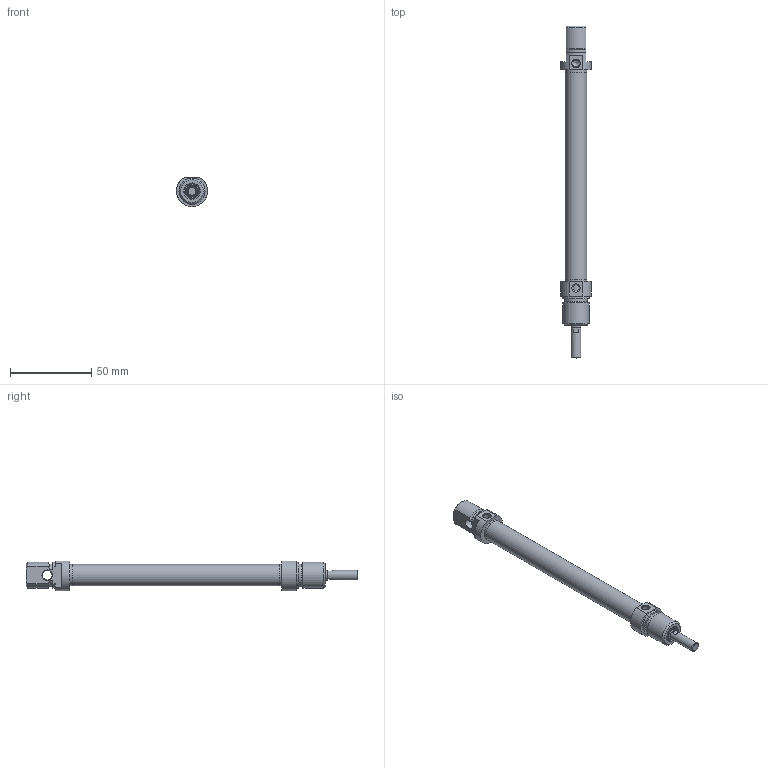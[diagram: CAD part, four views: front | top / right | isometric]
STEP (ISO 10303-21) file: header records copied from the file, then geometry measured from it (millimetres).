
FILE_DESCRIPTION((''),'2;1');
FILE_NAME('T:\Archivio Inventor\- 00 NUOVI STP PER SITO CON STELO CHE SI MUOVE\SERIE O\ODM\ODM012.---.GS.M\ODM012.100.GS.M.stp','2014-02-25T15:23:58',('carlo.corazza'),(''),'Autodesk Inventor 2012','Autodesk Inventor 2012','');
FILE_SCHEMA(('AUTOMOTIVE_DESIGN { 1 0 10303 214 1 1 1 1 }'));
Length unit declared in the file: millimetre
Products named in the file (5): ODM012..GS.M; CORPO-100; STELO-100; TA; TP
Assembly tree (4 placements, depth 2):
  ODM012..GS.M
    CORPO-100
    STELO-100
    TA
    TP
Bounding box: 18.95 x 204 x 18 mm (x, y, z)
Volume: 18468.5 mm3; surface area: 18304.2 mm2
Topology: 4 solids, 4 shells, 98 faces, 200 edges, 127 vertices
Faces by surface type: plane 38, cylinder 28, cone 24, torus 8
Full cylindrical faces by diameter (mm): 4 x1, 4.134 x2, 5.9 x1, 6 x2, 6.5 x1, 7.1 x1, 9 x1, 9.1 x1, 11.1 x1, 11.2 x1, 12 x1, 13.2 x2, 13.27 x1, 13.7 x1, 16 x2
Entity records: 2527 total; most frequent: DIRECTION 440, CARTESIAN_POINT 418, ORIENTED_EDGE 288, AXIS2_PLACEMENT_3D 198, EDGE_LOOP 166, EDGE_CURVE 144, VERTEX_POINT 118, FACE_OUTER_BOUND 98
